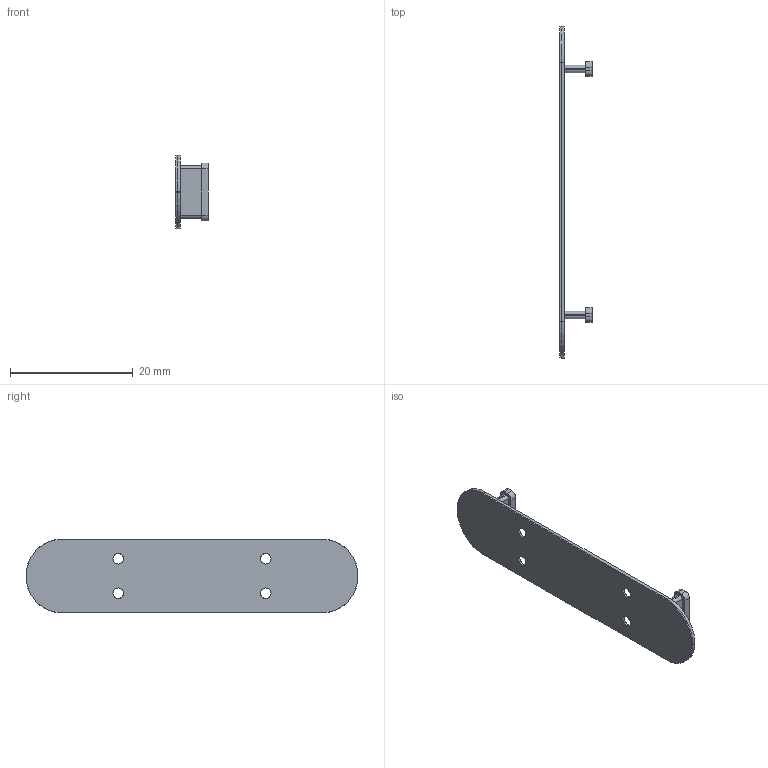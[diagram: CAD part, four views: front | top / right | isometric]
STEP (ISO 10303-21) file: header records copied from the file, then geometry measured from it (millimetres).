
FILE_DESCRIPTION(/* description */ (''),/* implementation_level */ '2;1');
FILE_NAME(/* name */ 'C28_R3_PTT_Carrier_Replaceable_Contact.step',/* time_stamp */ '2026-09-10T17:48:25-07:00',/* author */ (''),/* organization */ (''),/* preprocessor_version */ 'ST-DEVELOPER v20.1',/* originating_system */ 'Autodesk Translation Framework v15.8.0.0',/* authorisation */ '');
FILE_SCHEMA (('AUTOMOTIVE_DESIGN { 1 0 10303 214 3 1 1 }'));
Length unit declared in the file: millimetre
Products named in the file (1): 2026-09-10-17-48-25-258
Bounding box: 5.25 x 54 x 12 mm (x, y, z)
Volume: 537.3 mm3; surface area: 1547.3 mm2
Topology: 1 solids, 1 shells, 85 faces, 208 edges, 136 vertices
Faces by surface type: plane 45, cylinder 36, torus 4
Full cylindrical faces by diameter (mm): 1.7 x4, 2.8 x4
Entity records: 2563 total; most frequent: DIRECTION 456, CARTESIAN_POINT 430, ORIENTED_EDGE 416, EDGE_CURVE 208, AXIS2_PLACEMENT_3D 162, VERTEX_POINT 136, LINE 132, VECTOR 132
